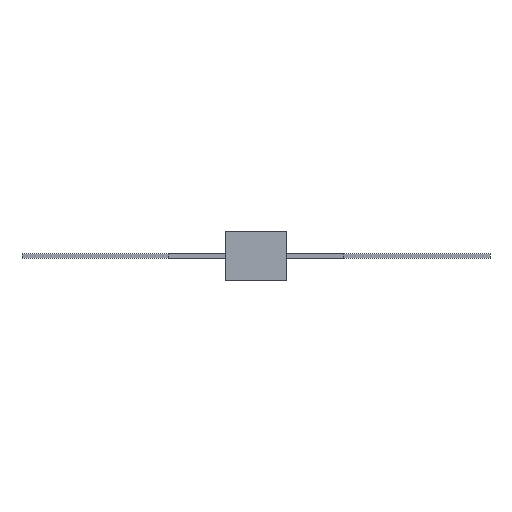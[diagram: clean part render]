
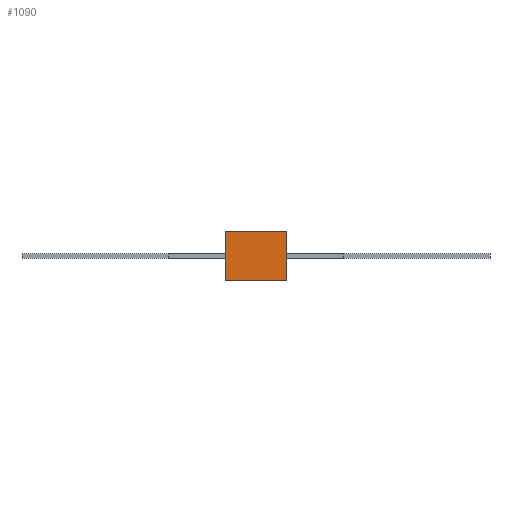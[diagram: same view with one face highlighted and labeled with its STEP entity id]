
A CAD part, front view. The second image highlights one B-rep face of the part: STEP entity #1090.
In plain terms, the highlighted planar face has unit normal (0, -1, 0).
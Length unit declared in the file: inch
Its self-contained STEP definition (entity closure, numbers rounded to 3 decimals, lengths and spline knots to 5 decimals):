
#38 = LINE ( 'NONE', #727, #429 ) ;
#57 = LINE ( 'NONE', #85, #148 ) ;
#85 = CARTESIAN_POINT ( 'NONE',  ( 3.125, 0., 2.5 ) ) ;
#91 = CARTESIAN_POINT ( 'NONE',  ( -3.125, 0., 2.5 ) ) ;
#92 = DIRECTION ( 'NONE',  ( 0., 1., 0. ) ) ;
#148 = VECTOR ( 'NONE', #752, 39.37008 ) ;
#219 = CARTESIAN_POINT ( 'NONE',  ( 3.125, 0., 2.5 ) ) ;
#255 = CARTESIAN_POINT ( 'NONE',  ( -3.125, 0., -2.5 ) ) ;
#264 = EDGE_CURVE ( 'NONE', #493, #615, #1241, .T. ) ;
#272 = VERTEX_POINT ( 'NONE', #255 ) ;
#282 = DIRECTION ( 'NONE',  ( -1., 0., 0. ) ) ;
#343 = EDGE_CURVE ( 'NONE', #390, #272, #38, .T. ) ;
#390 = VERTEX_POINT ( 'NONE', #1054 ) ;
#429 = VECTOR ( 'NONE', #282, 39.37008 ) ;
#493 = VERTEX_POINT ( 'NONE', #1308 ) ;
#522 = VECTOR ( 'NONE', #1300, 39.37008 ) ;
#530 = EDGE_LOOP ( 'NONE', ( #1267, #532, #599, #1409 ) ) ;
#532 = ORIENTED_EDGE ( 'NONE', *, *, #343, .F. ) ;
#545 = DIRECTION ( 'NONE',  ( 0., 0., 1. ) ) ;
#569 = EDGE_CURVE ( 'NONE', #272, #493, #1073, .T. ) ;
#599 = ORIENTED_EDGE ( 'NONE', *, *, #1020, .F. ) ;
#615 = VERTEX_POINT ( 'NONE', #219 ) ;
#634 = AXIS2_PLACEMENT_3D ( 'NONE', #982, #92, #545 ) ;
#727 = CARTESIAN_POINT ( 'NONE',  ( 3.125, 0., -2.5 ) ) ;
#752 = DIRECTION ( 'NONE',  ( 0., 0., -1. ) ) ;
#863 = FACE_OUTER_BOUND ( 'NONE', #530, .T. ) ;
#982 = CARTESIAN_POINT ( 'NONE',  ( 0., 0., 0. ) ) ;
#1020 = EDGE_CURVE ( 'NONE', #615, #390, #57, .T. ) ;
#1054 = CARTESIAN_POINT ( 'NONE',  ( 3.125, 0., -2.5 ) ) ;
#1073 = LINE ( 'NONE', #91, #522 ) ;
#1090 = ADVANCED_FACE ( 'NONE', ( #863 ), #1201, .F. ) ;
#1201 = PLANE ( 'NONE',  #634 ) ;
#1241 = LINE ( 'NONE', #1244, #1395 ) ;
#1244 = CARTESIAN_POINT ( 'NONE',  ( 3.125, 0., 2.5 ) ) ;
#1260 = DIRECTION ( 'NONE',  ( 1., 0., 0. ) ) ;
#1267 = ORIENTED_EDGE ( 'NONE', *, *, #569, .F. ) ;
#1300 = DIRECTION ( 'NONE',  ( 0., 0., 1. ) ) ;
#1308 = CARTESIAN_POINT ( 'NONE',  ( -3.125, 0., 2.5 ) ) ;
#1395 = VECTOR ( 'NONE', #1260, 39.37008 ) ;
#1409 = ORIENTED_EDGE ( 'NONE', *, *, #264, .F. ) ;
